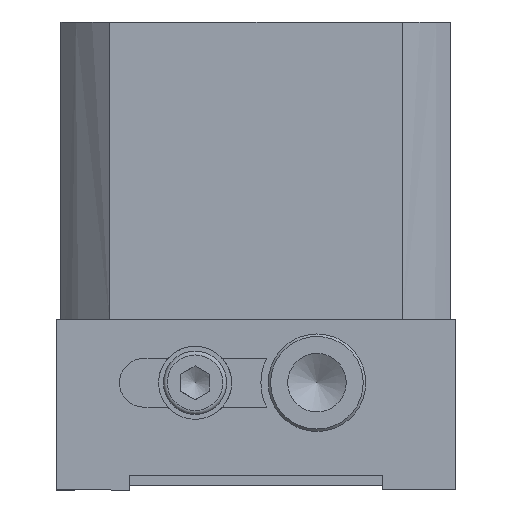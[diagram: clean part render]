
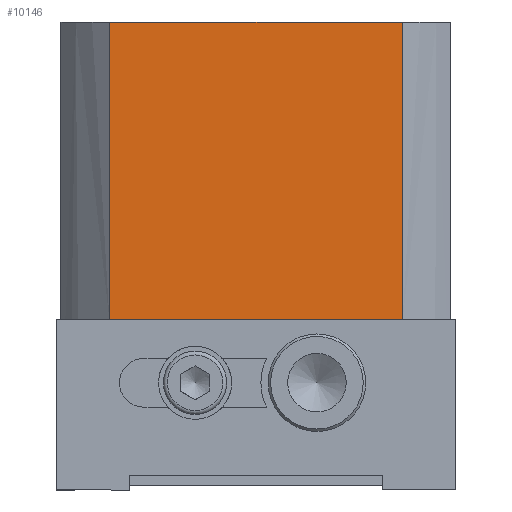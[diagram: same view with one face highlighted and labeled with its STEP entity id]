
A CAD part, left-side view. The second image highlights one B-rep face of the part: STEP entity #10146.
In plain terms, the highlighted planar face has unit normal (-1, 0, 0).
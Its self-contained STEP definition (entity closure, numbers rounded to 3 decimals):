
#10017=CARTESIAN_POINT('',(10.,80.0,-11.));
#10018=VERTEX_POINT('',#10017);
#10031=CARTESIAN_POINT('',(10.,20.,-11.));
#10032=VERTEX_POINT('',#10031);
#10040=CARTESIAN_POINT('',(10.,80.0,-11.));
#10041=DIRECTION('',(0.0,-1.0,0.0));
#10042=VECTOR('',#10041,60.);
#10043=LINE('',#10040,#10042);
#10044=EDGE_CURVE('',#10018,#10032,#10043,.T.);
#10062=CARTESIAN_POINT('',(10.,80.0,50.0));
#10063=VERTEX_POINT('',#10062);
#10064=CARTESIAN_POINT('',(10.,80.0,50.0));
#10065=DIRECTION('',(0.0,0.0,-1.0));
#10066=VECTOR('',#10065,61.);
#10067=LINE('',#10064,#10066);
#10068=EDGE_CURVE('',#10063,#10018,#10067,.T.);
#10123=CARTESIAN_POINT('',(10.,80.0,50.0));
#10124=DIRECTION('',(-1.0,0.0,0.0));
#10125=DIRECTION('',(0.0,0.0,1.0));
#10126=AXIS2_PLACEMENT_3D('',#10123,#10124,#10125);
#10127=PLANE('',#10126);
#10128=ORIENTED_EDGE('',*,*,#10044,.T.);
#10129=CARTESIAN_POINT('',(10.,20.,50.0));
#10130=VERTEX_POINT('',#10129);
#10131=CARTESIAN_POINT('',(10.,20.,50.0));
#10132=DIRECTION('',(0.0,0.0,-1.0));
#10133=VECTOR('',#10132,61.);
#10134=LINE('',#10131,#10133);
#10135=EDGE_CURVE('',#10130,#10032,#10134,.T.);
#10136=ORIENTED_EDGE('',*,*,#10135,.F.);
#10137=CARTESIAN_POINT('',(10.0,80.,50.0));
#10138=DIRECTION('',(0.0,-1.0,0.0));
#10139=VECTOR('',#10138,60.);
#10140=LINE('',#10137,#10139);
#10141=EDGE_CURVE('',#10063,#10130,#10140,.T.);
#10142=ORIENTED_EDGE('',*,*,#10141,.F.);
#10143=ORIENTED_EDGE('',*,*,#10068,.T.);
#10144=EDGE_LOOP('',(#10128,#10136,#10142,#10143));
#10145=FACE_OUTER_BOUND('',#10144,.T.);
#10146=ADVANCED_FACE('',(#10145),#10127,.T.);
